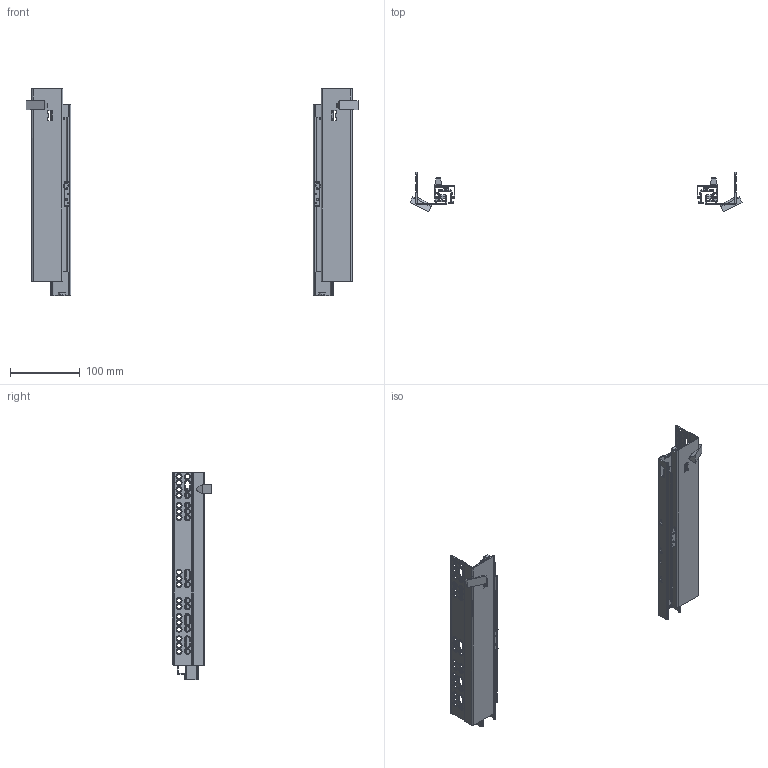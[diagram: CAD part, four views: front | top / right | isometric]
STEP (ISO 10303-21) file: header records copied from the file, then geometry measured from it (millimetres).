
FILE_DESCRIPTION (( 'STEP AP203' ), '1' );
FILE_NAME ('728MCFH(19)-290-TM 客人用图.STEP', '2021-02-24T06:30:23', ( '微软用户' ), ( '微软中国' ), 'SwSTEP 2.0', 'SolidWorks 2014', '' );
FILE_SCHEMA (( 'CONFIG_CONTROL_DESIGN' ));
Length unit declared in the file: millimetre
Products named in the file (17): 728CFH-300-ZG-R  中轨组件（右） 客人用图; 镜向728CFH-300-ZG-R  中轨组件（右） 客人用图; 镜向728CFH(19)-300 固定轨（右）客人参考用; 镜向728MCFH（16）-290-HDG-R  活动轨（右） 客人用图; 708-1 尾勾（常规三节轨用）; 镜向708-1 尾勾（常规三节轨用）; 镜向728-2 活动轨挡位焊片（无把手有把手通用）; 728CFH(19)-300 固定轨（右）客人参考用; 镜向728MCFH(16)-290-HDG-R 活动轨组件（右）客人用图; 728 笢寢爾え; 728-2 活动轨挡位焊片（无把手有把手通用）; 728MCFH（16）-290-HDG-R  活动轨（右） 客人用图; 镜向728CFH-300-R  中轨（右）客人用图; 728MCFH(19)-290-TM  客人用图; 728MCFH(16)-290-HDG-R 活动轨组件（右）客人用图; 噩砃728 笢寢爾え; 728CFH-300-R  中轨（右）客人用图
Assembly tree (16 placements, depth 3):
  728MCFH(19)-290-TM  客人用图
    728CFH(19)-300 固定轨（右）客人参考用
    728MCFH(16)-290-HDG-R 活动轨组件（右）客人用图
      728MCFH（16）-290-HDG-R  活动轨（右） 客人用图
      708-1 尾勾（常规三节轨用）
      728-2 活动轨挡位焊片（无把手有把手通用）
    728CFH-300-ZG-R  中轨组件（右） 客人用图
      728CFH-300-R  中轨（右）客人用图
      728 笢寢爾え
    镜向728CFH(19)-300 固定轨（右）客人参考用
    镜向728MCFH(16)-290-HDG-R 活动轨组件（右）客人用图
      镜向728MCFH（16）-290-HDG-R  活动轨（右） 客人用图
      镜向708-1 尾勾（常规三节轨用）
      镜向728-2 活动轨挡位焊片（无把手有把手通用）
    镜向728CFH-300-ZG-R  中轨组件（右） 客人用图
      镜向728CFH-300-R  中轨（右）客人用图
      噩砃728 笢寢爾え
Bounding box: 476.96 x 56.31 x 297.4 mm (x, y, z)
Volume: 187046.1 mm3; surface area: 260319.4 mm2
Topology: 14 solids, 14 shells, 1562 faces, 3878 edges, 2434 vertices
Faces by surface type: plane 720, cylinder 540, cone 284, bspline 14, torus 4
Entity records: 49599 total; most frequent: CARTESIAN_POINT 9339, DIRECTION 8392, ORIENTED_EDGE 7756, EDGE_CURVE 3878, AXIS2_PLACEMENT_3D 3033, VERTEX_POINT 2434, VECTOR 2326, LINE 2326
